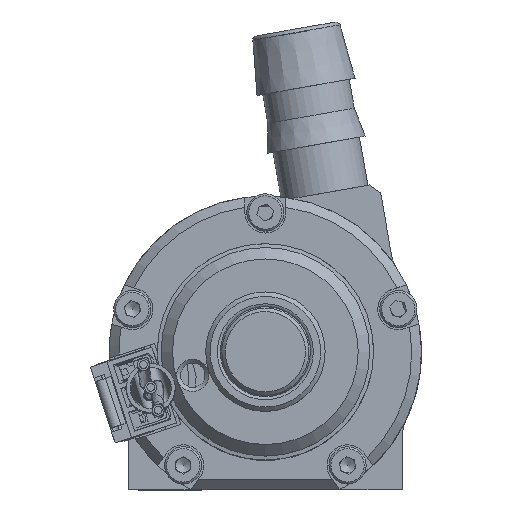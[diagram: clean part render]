
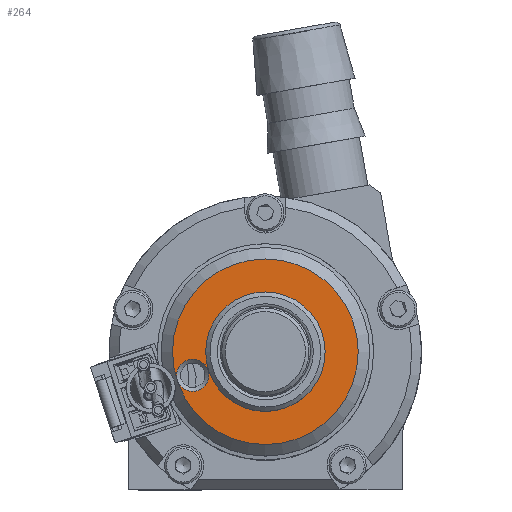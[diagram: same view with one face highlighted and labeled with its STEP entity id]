
A CAD part, top view. The second image highlights one B-rep face of the part: STEP entity #264.
In plain terms, the highlighted planar face has unit normal (0, 0, 1).
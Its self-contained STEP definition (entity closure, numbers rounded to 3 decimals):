
#264 = ADVANCED_FACE ( 'NONE', ( #4507, #8522, #3523 ), #2536, .T. ) ;
#813 = DIRECTION ( 'NONE',  ( 0., 0., 1. ) ) ;
#821 = DIRECTION ( 'NONE',  ( 1., 0., 0. ) ) ;
#1019 = CARTESIAN_POINT ( 'NONE',  ( 9.48, 0., 30.495 ) ) ;
#1076 = AXIS2_PLACEMENT_3D ( 'NONE', #9706, #4832, #821 ) ;
#1241 = EDGE_CURVE ( 'NONE', #5044, #5044, #6128, .T. ) ;
#1368 = EDGE_LOOP ( 'NONE', ( #8301 ) ) ;
#2355 = AXIS2_PLACEMENT_3D ( 'NONE', #7556, #11370, #11431 ) ;
#2536 = PLANE ( 'NONE',  #1076 ) ;
#3299 = EDGE_LOOP ( 'NONE', ( #10441 ) ) ;
#3370 = EDGE_CURVE ( 'NONE', #11083, #11083, #9540, .T. ) ;
#3523 = FACE_BOUND ( 'NONE', #9519, .T. ) ;
#4507 = FACE_BOUND ( 'NONE', #3299, .T. ) ;
#4692 = CARTESIAN_POINT ( 'NONE',  ( -7.418, -2.41, 30.495 ) ) ;
#4832 = DIRECTION ( 'NONE',  ( 0., 0., 1. ) ) ;
#5028 = VERTEX_POINT ( 'NONE', #1019 ) ;
#5043 = CARTESIAN_POINT ( 'NONE',  ( 0., 0., 30.495 ) ) ;
#5044 = VERTEX_POINT ( 'NONE', #7812 ) ;
#5485 = AXIS2_PLACEMENT_3D ( 'NONE', #5043, #12938, #7939 ) ;
#6089 = CARTESIAN_POINT ( 'NONE',  ( -5.768, -2.41, 30.495 ) ) ;
#6128 = CIRCLE ( 'NONE', #2355, 6.1 ) ;
#7446 = AXIS2_PLACEMENT_3D ( 'NONE', #4692, #813, #11728 ) ;
#7556 = CARTESIAN_POINT ( 'NONE',  ( 0., 0., 30.495 ) ) ;
#7812 = CARTESIAN_POINT ( 'NONE',  ( -6.1, 0., 30.495 ) ) ;
#7939 = DIRECTION ( 'NONE',  ( 1., 0., 0. ) ) ;
#8301 = ORIENTED_EDGE ( 'NONE', *, *, #10877, .F. ) ;
#8522 = FACE_OUTER_BOUND ( 'NONE', #1368, .T. ) ;
#9519 = EDGE_LOOP ( 'NONE', ( #10664 ) ) ;
#9540 = CIRCLE ( 'NONE', #7446, 1.65 ) ;
#9706 = CARTESIAN_POINT ( 'NONE',  ( 0., 12.184, 30.495 ) ) ;
#10441 = ORIENTED_EDGE ( 'NONE', *, *, #3370, .F. ) ;
#10664 = ORIENTED_EDGE ( 'NONE', *, *, #1241, .T. ) ;
#10877 = EDGE_CURVE ( 'NONE', #5028, #5028, #11143, .T. ) ;
#11083 = VERTEX_POINT ( 'NONE', #6089 ) ;
#11143 = CIRCLE ( 'NONE', #5485, 9.48 ) ;
#11370 = DIRECTION ( 'NONE',  ( 0., 0., -1. ) ) ;
#11431 = DIRECTION ( 'NONE',  ( -1., 0., 0. ) ) ;
#11728 = DIRECTION ( 'NONE',  ( 1., 0., 0. ) ) ;
#12938 = DIRECTION ( 'NONE',  ( 0., 0., -1. ) ) ;
